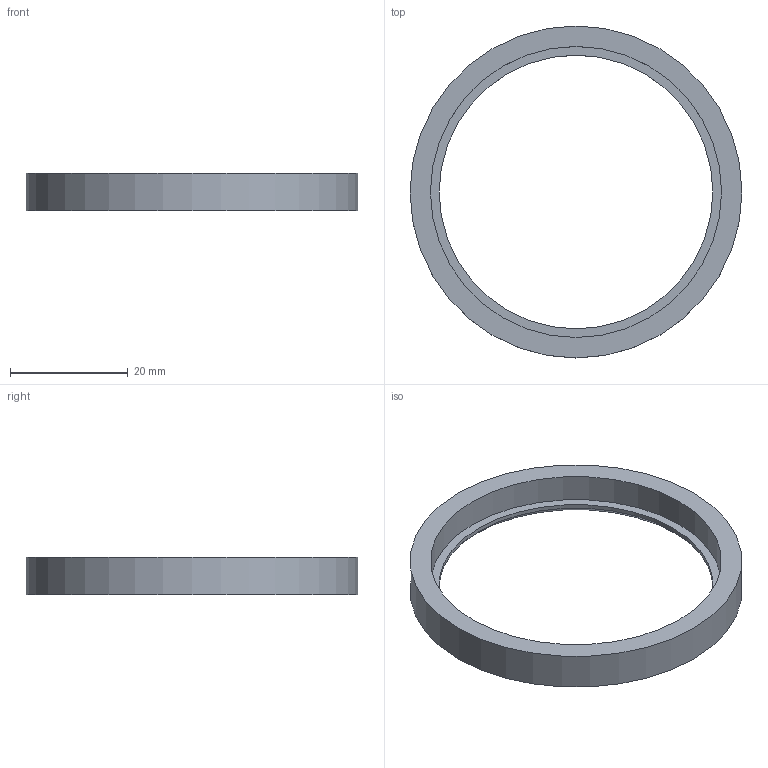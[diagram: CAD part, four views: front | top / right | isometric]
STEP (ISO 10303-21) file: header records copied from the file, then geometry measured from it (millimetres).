
FILE_DESCRIPTION(('Open CASCADE Model'),'2;1');
FILE_NAME('Open CASCADE Shape Model','2026-10-13T21:35:46',('Author'),( 'Open CASCADE'),'Open CASCADE STEP processor 7.9','Open CASCADE 7.9' ,'Unknown');
FILE_SCHEMA(('AUTOMOTIVE_DESIGN { 1 0 10303 214 1 1 1 1 }'));
Length unit declared in the file: millimetre
Products named in the file (1): Open CASCADE STEP translator 7.9 4
Bounding box: 56.4 x 56.4 x 6.4 mm (x, y, z)
Volume: 3996.6 mm3; surface area: 3642.3 mm2
Topology: 1 solids, 1 shells, 7 faces, 11 edges, 7 vertices
Faces by surface type: cylinder 3, plane 3, cone 1
Full cylindrical faces by diameter (mm): 46.5 x1, 49.46 x1, 56.4 x1
Entity records: 327 total; most frequent: CARTESIAN_POINT 60, DIRECTION 54, ORIENTED_EDGE 22, PCURVE 22, DEFINITIONAL_REPRESENTATION 22, LINE 20, VECTOR 20, AXIS2_PLACEMENT_3D 15
